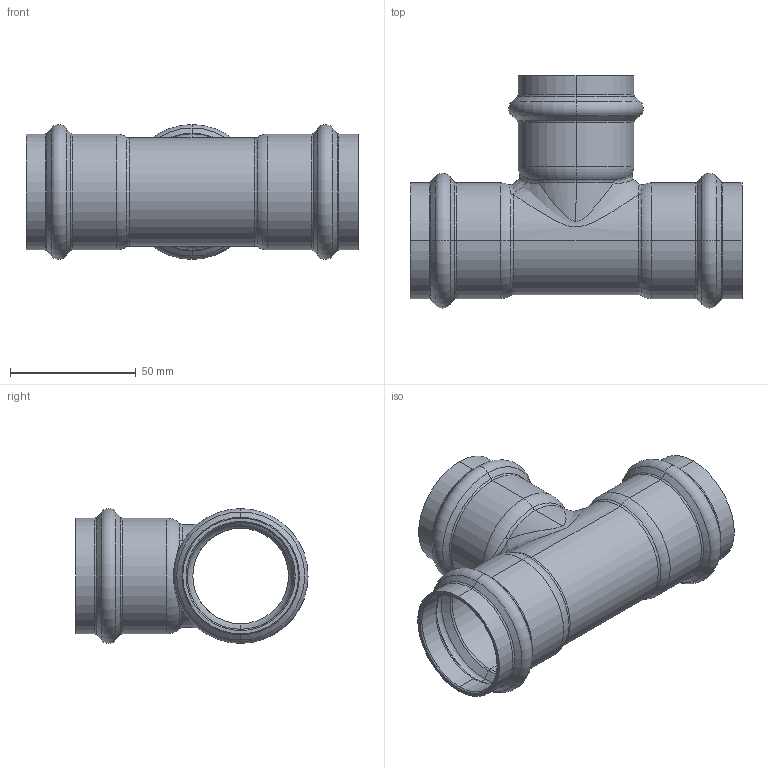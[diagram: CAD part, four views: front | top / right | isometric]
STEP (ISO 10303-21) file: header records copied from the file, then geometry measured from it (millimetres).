
FILE_DESCRIPTION (( 'STEP AP203' ), '1' );
FILE_NAME ('SP5130 Ø42.STEP', '2017-04-25T15:06:18', ( '' ), ( '' ), 'SwSTEP 2.0', 'SolidWorks 2016', '' );
FILE_SCHEMA (( 'CONFIG_CONTROL_DESIGN' ));
Length unit declared in the file: millimetre
Products named in the file (1): SP5130 ﾘ42
Bounding box: 132 x 92.3 x 53.6 mm (x, y, z)
Volume: 49515.5 mm3; surface area: 50798.8 mm2
Topology: 1 solids, 1 shells, 132 faces, 276 edges, 146 vertices
Faces by surface type: torus 57, cylinder 34, cone 30, bspline 8, plane 3
Entity records: 5538 total; most frequent: CARTESIAN_POINT 2606, DIRECTION 695, ORIENTED_EDGE 552, AXIS2_PLACEMENT_3D 317, EDGE_CURVE 276, CIRCLE 192, VERTEX_POINT 146, EDGE_LOOP 136
